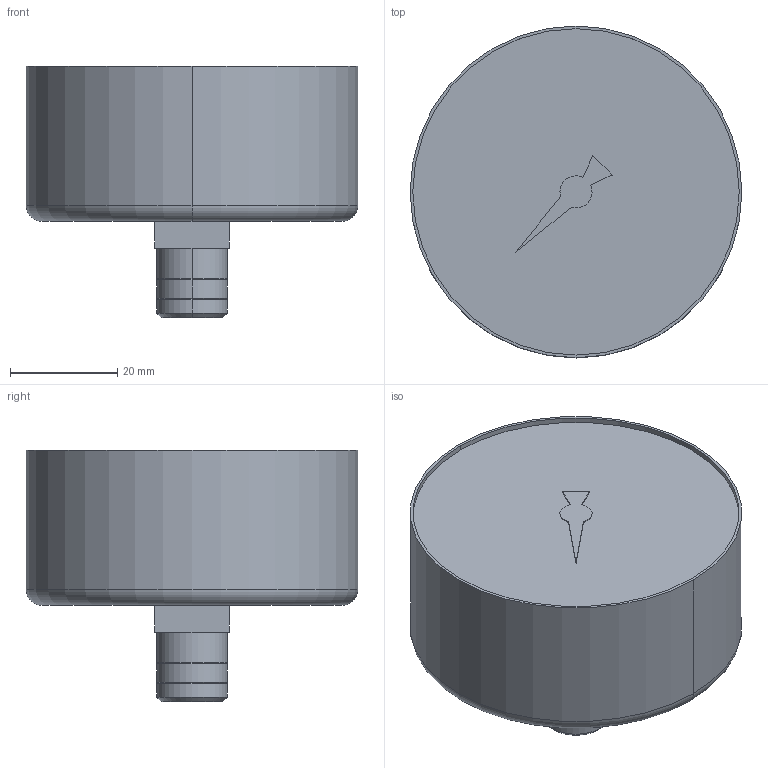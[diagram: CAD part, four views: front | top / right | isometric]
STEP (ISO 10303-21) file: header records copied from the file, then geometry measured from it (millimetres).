
FILE_DESCRIPTION((''),'2;1');
FILE_NAME('R412004420','2020-10-06T18:40:43',('GIO1HC'),(''),'CREO PARAMETRIC BY PTC INC, 2018190','CREO PARAMETRIC BY PTC INC, 2018190','');
FILE_SCHEMA(('AUTOMOTIVE_DESIGN { 1 0 10303 214 1 1 1 1 }'));
Length unit declared in the file: millimetre
Products named in the file (1): R412004420
Bounding box: 62 x 62 x 47 mm (x, y, z)
Volume: 87011.5 mm3; surface area: 12558.5 mm2
Topology: 1 solids, 1 shells, 42 faces, 89 edges, 54 vertices
Faces by surface type: plane 16, cylinder 14, cone 10, torus 2
Entity records: 1315 total; most frequent: DIRECTION 233, CARTESIAN_POINT 198, ORIENTED_EDGE 178, AXIS2_PLACEMENT_3D 91, EDGE_CURVE 89, VERTEX_POINT 54, VECTOR 51, LINE 51
